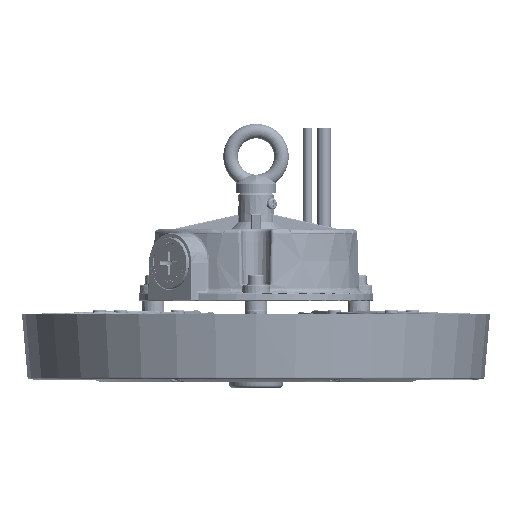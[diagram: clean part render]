
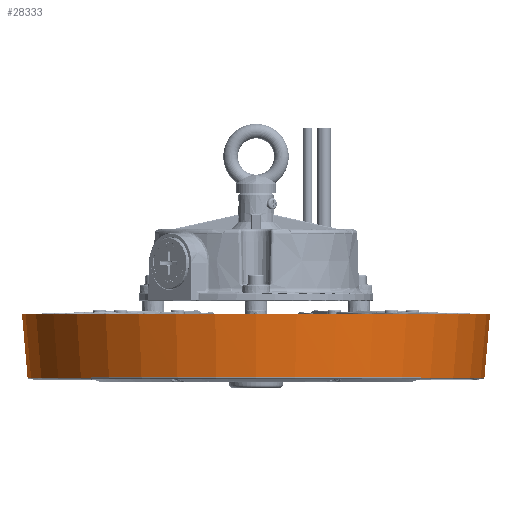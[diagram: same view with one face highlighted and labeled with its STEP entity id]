
A CAD part, top view. The second image highlights one B-rep face of the part: STEP entity #28333.
In plain terms, the highlighted conical face has half-angle 5 degrees and reference radius 127.165 mm.
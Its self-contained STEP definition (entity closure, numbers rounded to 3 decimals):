
#801=CARTESIAN_POINT('',(0.,0.913,0.));
#802=DIRECTION('',(0.,1.,0.));
#803=DIRECTION('',(-1.,0.,0.));
#804=AXIS2_PLACEMENT_3D('',#801,#802,#803);
#806=CARTESIAN_POINT('',(0.,0.913,0.));
#807=DIRECTION('',(0.,1.,0.));
#808=DIRECTION('',(1.,0.,0.004));
#809=AXIS2_PLACEMENT_3D('',#806,#807,#808);
#821=DIRECTION('',(-0.087,-0.996,0.));
#822=VECTOR('',#821,35.221);
#823=CARTESIAN_POINT('',(128.7,36.,0.));
#824=LINE('',#823,#822);
#825=DIRECTION('',(0.087,-0.996,0.));
#826=VECTOR('',#825,35.221);
#827=CARTESIAN_POINT('',(-128.7,36.,0.));
#828=LINE('',#827,#826);
#849=CARTESIAN_POINT('',(0.,36.,0.));
#850=DIRECTION('',(0.,-1.,0.));
#851=DIRECTION('',(1.,0.,0.));
#852=AXIS2_PLACEMENT_3D('',#849,#850,#851);
#24378=CARTESIAN_POINT('',(-125.63,0.913,
0.));
#24379=CARTESIAN_POINT('',(125.629,0.913,
0.535));
#24380=VERTEX_POINT('',#24378);
#24381=VERTEX_POINT('',#24379);
#24382=CARTESIAN_POINT('',(125.63,0.913,
0.));
#24383=VERTEX_POINT('',#24382);
#24384=CARTESIAN_POINT('',(-128.7,36.,0.));
#24385=VERTEX_POINT('',#24384);
#24386=CARTESIAN_POINT('',(128.7,36.,0.));
#24387=VERTEX_POINT('',#24386);
#28318=CARTESIAN_POINT('',(0.,18.456,0.));
#28319=DIRECTION('',(0.,1.,0.));
#28320=DIRECTION('',(1.,0.,0.));
#28321=AXIS2_PLACEMENT_3D('',#28318,#28319,#28320);
#28322=CONICAL_SURFACE('',#28321,127.165,5.);
#28323=ORIENTED_EDGE('',*,*,#28307,.F.);
#28324=ORIENTED_EDGE('',*,*,#28305,.F.);
#28326=ORIENTED_EDGE('',*,*,#28325,.F.);
#28328=ORIENTED_EDGE('',*,*,#28327,.F.);
#28330=ORIENTED_EDGE('',*,*,#28329,.T.);
#28331=EDGE_LOOP('',(#28323,#28324,#28326,#28328,#28330));
#28332=FACE_OUTER_BOUND('',#28331,.F.);
#28333=ADVANCED_FACE('',(#28332),#28322,.T.);
#805=CIRCLE('',#804,125.63);
#810=CIRCLE('',#809,125.63);
#853=CIRCLE('',#852,128.7);
#28305=EDGE_CURVE('',#24380,#24381,#805,.T.);
#28307=EDGE_CURVE('',#24381,#24383,#810,.T.);
#28325=EDGE_CURVE('',#24385,#24380,#828,.T.);
#28327=EDGE_CURVE('',#24387,#24385,#853,.T.);
#28329=EDGE_CURVE('',#24387,#24383,#824,.T.);
